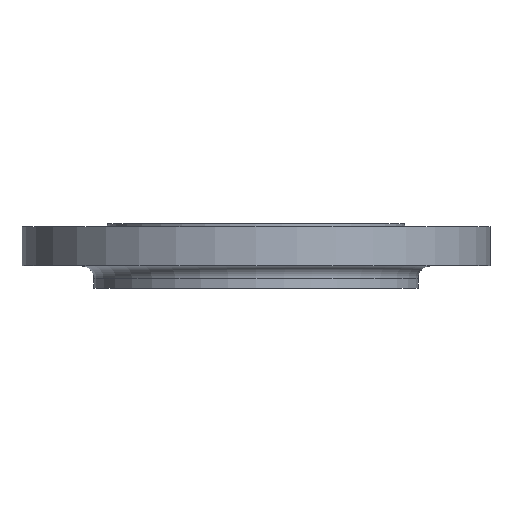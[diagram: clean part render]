
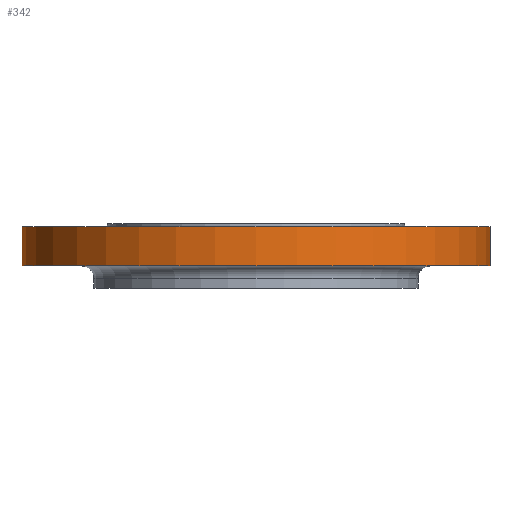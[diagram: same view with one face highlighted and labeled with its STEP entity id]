
A CAD part, front view. The second image highlights one B-rep face of the part: STEP entity #342.
In plain terms, the highlighted cylindrical face has radius 187.5 mm (diameter 375 mm), a partial arc.
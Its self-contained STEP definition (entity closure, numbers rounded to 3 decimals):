
#63 = DIRECTION ( 'NONE',  ( 1., 0., 0. ) ) ;
#64 = DIRECTION ( 'NONE',  ( 0., 0., 1. ) ) ;
#65 = CARTESIAN_POINT ( 'NONE',  ( 0., 0., -34. ) ) ;
#66 = CARTESIAN_POINT ( 'NONE',  ( -187.5, 0., -34. ) ) ;
#86 = CARTESIAN_POINT ( 'NONE',  ( 187.5, 0., -2.5 ) ) ;
#218 = DIRECTION ( 'NONE',  ( 0., 0., 1. ) ) ;
#219 = CARTESIAN_POINT ( 'NONE',  ( 187.5, 0., -98. ) ) ;
#220 = LINE ( 'NONE', #219, #272 ) ;
#272 = VECTOR ( 'NONE', #218, 1000. ) ;
#342 = ADVANCED_FACE ( 'NONE', ( #474 ), #472, .T. ) ;
#357 = DIRECTION ( 'NONE',  ( 0., 0., 1. ) ) ;
#358 = CARTESIAN_POINT ( 'NONE',  ( -187.5, 0., -98. ) ) ;
#360 = LINE ( 'NONE', #358, #484 ) ;
#375 = AXIS2_PLACEMENT_3D ( 'NONE', #471, #469, #468 ) ;
#468 = DIRECTION ( 'NONE',  ( 1., 0., 0. ) ) ;
#469 = DIRECTION ( 'NONE',  ( 0., 0., 1. ) ) ;
#471 = CARTESIAN_POINT ( 'NONE',  ( 0., 0., -98. ) ) ;
#472 = CYLINDRICAL_SURFACE ( 'NONE', #375, 187.5 ) ;
#474 = FACE_OUTER_BOUND ( 'NONE', #1087, .T. ) ;
#475 = DIRECTION ( 'NONE',  ( -1., 0., 0. ) ) ;
#484 = VECTOR ( 'NONE', #357, 1000. ) ;
#556 = CIRCLE ( 'NONE', #566, 187.5 ) ;
#566 = AXIS2_PLACEMENT_3D ( 'NONE', #65, #64, #63 ) ;
#608 = CIRCLE ( 'NONE', #637, 187.5 ) ;
#637 = AXIS2_PLACEMENT_3D ( 'NONE', #994, #1284, #475 ) ;
#675 = EDGE_CURVE ( 'NONE', #996, #1412, #360, .T. ) ;
#781 = CARTESIAN_POINT ( 'NONE',  ( 187.5, 0., -34. ) ) ;
#812 = EDGE_CURVE ( 'NONE', #1208, #939, #220, .T. ) ;
#939 = VERTEX_POINT ( 'NONE', #86 ) ;
#994 = CARTESIAN_POINT ( 'NONE',  ( 0., 0., -2.5 ) ) ;
#996 = VERTEX_POINT ( 'NONE', #66 ) ;
#998 = EDGE_CURVE ( 'NONE', #996, #1208, #556, .T. ) ;
#1087 = EDGE_LOOP ( 'NONE', ( #1377, #1378, #1379, #1380 ) ) ;
#1156 = CARTESIAN_POINT ( 'NONE',  ( -187.5, 0., -2.5 ) ) ;
#1165 = EDGE_CURVE ( 'NONE', #939, #1412, #608, .T. ) ;
#1208 = VERTEX_POINT ( 'NONE', #781 ) ;
#1284 = DIRECTION ( 'NONE',  ( 0., 0., -1. ) ) ;
#1377 = ORIENTED_EDGE ( 'NONE', *, *, #675, .F. ) ;
#1378 = ORIENTED_EDGE ( 'NONE', *, *, #998, .T. ) ;
#1379 = ORIENTED_EDGE ( 'NONE', *, *, #812, .T. ) ;
#1380 = ORIENTED_EDGE ( 'NONE', *, *, #1165, .T. ) ;
#1412 = VERTEX_POINT ( 'NONE', #1156 ) ;
